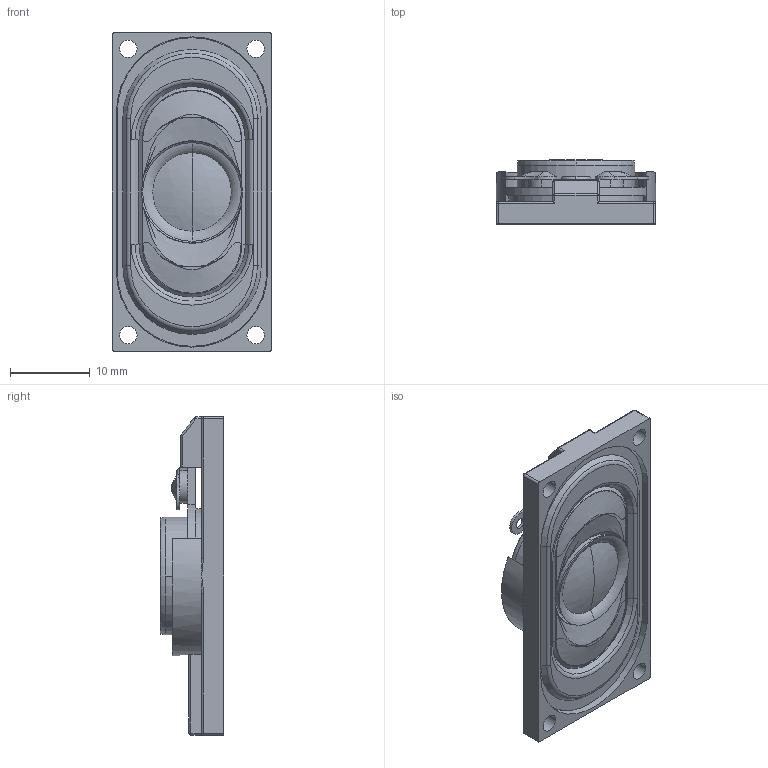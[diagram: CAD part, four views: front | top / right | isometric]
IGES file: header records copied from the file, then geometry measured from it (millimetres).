
Global section: file name: No Iges File Name specified; native system: AutoDesk Inventor R12.0; preprocessor: AutoDesk Inventor Iges Exporter R12.0; date: 20090220.154836; units: millimetre
Bounding box: 20 x 8 x 40 mm (x, y, z)
Volume: 2196.9 mm3; surface area: 4122 mm2
Topology: 1 solids, 2 shells, 257 faces, 689 edges, 411 vertices
Faces by surface type: plane 70, bspline 61, cylinder 55, revolution 33, torus 20, sphere 10, cone 8
